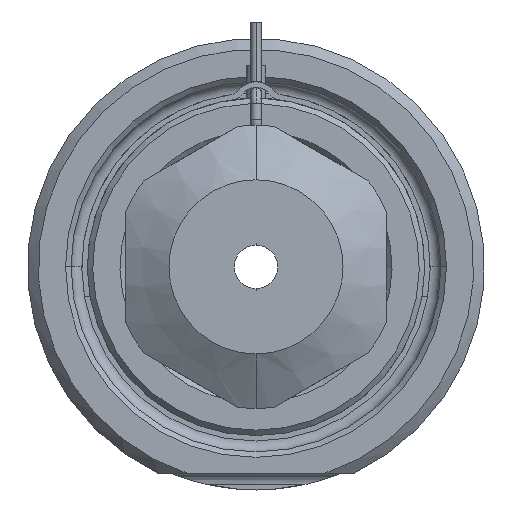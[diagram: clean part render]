
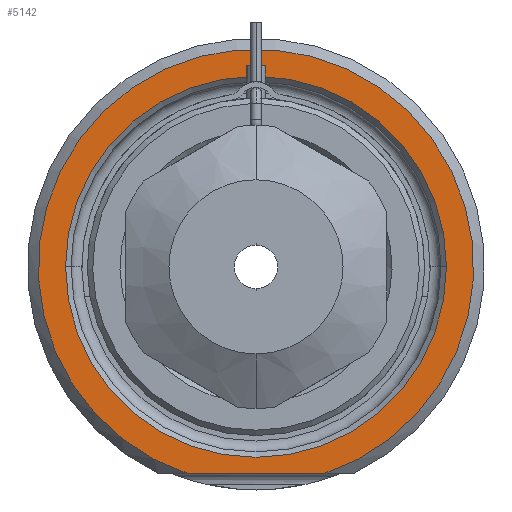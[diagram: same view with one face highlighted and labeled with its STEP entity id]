
A CAD part, front view. The second image highlights one B-rep face of the part: STEP entity #5142.
In plain terms, the highlighted planar face has unit normal (0, -1, 0).
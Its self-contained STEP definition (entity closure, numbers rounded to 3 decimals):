
#1616=DIRECTION('',(1.,0.,0.));
#1617=VECTOR('',#1616,12.49);
#1618=CARTESIAN_POINT('',(-6.245,0.,-19.));
#1619=LINE('',#1618,#1617);
#1620=CARTESIAN_POINT('',(0.,0.,0.));
#1621=DIRECTION('',(0.,1.,0.));
#1622=DIRECTION('',(-1.,0.,0.));
#1623=AXIS2_PLACEMENT_3D('',#1620,#1621,#1622);
#1625=CARTESIAN_POINT('',(0.,0.,0.));
#1626=DIRECTION('',(0.,1.,0.));
#1627=DIRECTION('',(1.,0.,0.));
#1628=AXIS2_PLACEMENT_3D('',#1625,#1626,#1627);
#1734=CARTESIAN_POINT('',(0.,0.,0.));
#1735=DIRECTION('',(0.,-1.,0.));
#1736=DIRECTION('',(0.312,0.,-0.95));
#1737=AXIS2_PLACEMENT_3D('',#1734,#1735,#1736);
#2743=CARTESIAN_POINT('',(-17.5,0.,0.));
#2744=CARTESIAN_POINT('',(17.5,0.,0.));
#2745=VERTEX_POINT('',#2743);
#2746=VERTEX_POINT('',#2744);
#2801=CARTESIAN_POINT('',(-6.245,0.,-19.));
#2802=CARTESIAN_POINT('',(6.245,0.,-19.));
#2803=VERTEX_POINT('',#2801);
#2804=VERTEX_POINT('',#2802);
#5126=CARTESIAN_POINT('',(0.,0.,0.));
#5127=DIRECTION('',(0.,-1.,0.));
#5128=DIRECTION('',(1.,0.,0.));
#5129=AXIS2_PLACEMENT_3D('',#5126,#5127,#5128);
#5130=PLANE('',#5129);
#5132=ORIENTED_EDGE('',*,*,#5131,.F.);
#5134=ORIENTED_EDGE('',*,*,#5133,.F.);
#5135=EDGE_LOOP('',(#5132,#5134));
#5136=FACE_OUTER_BOUND('',#5135,.F.);
#5137=ORIENTED_EDGE('',*,*,#5116,.F.);
#5139=ORIENTED_EDGE('',*,*,#5138,.F.);
#5140=EDGE_LOOP('',(#5137,#5139));
#5141=FACE_BOUND('',#5140,.F.);
#5142=ADVANCED_FACE('',(#5136,#5141),#5130,.T.);
#1624=CIRCLE('',#1623,17.5);
#1629=CIRCLE('',#1628,17.5);
#1738=CIRCLE('',#1737,20.);
#5116=EDGE_CURVE('',#2745,#2746,#1624,.T.);
#5131=EDGE_CURVE('',#2803,#2804,#1619,.T.);
#5133=EDGE_CURVE('',#2804,#2803,#1738,.T.);
#5138=EDGE_CURVE('',#2746,#2745,#1629,.T.);
